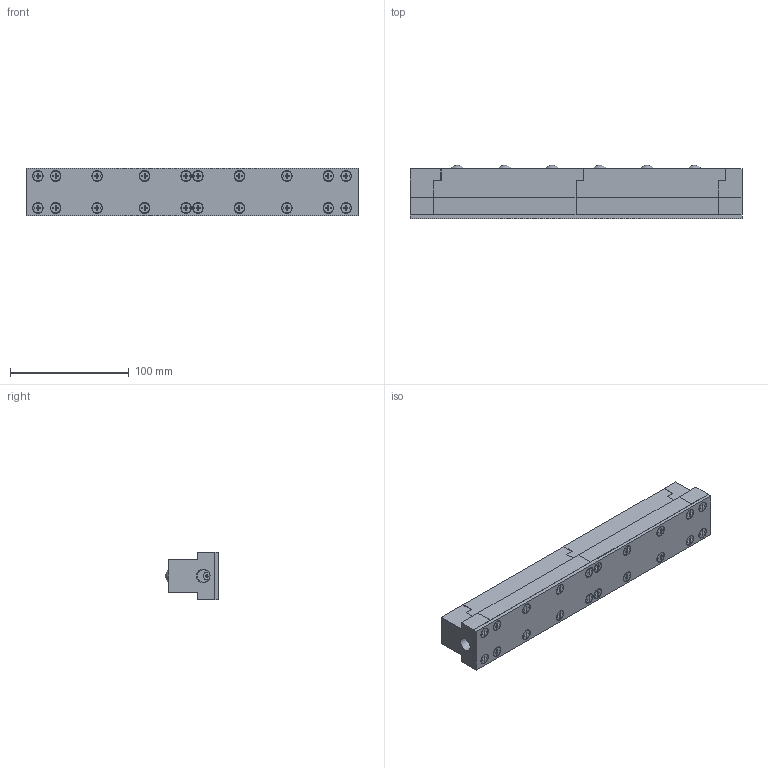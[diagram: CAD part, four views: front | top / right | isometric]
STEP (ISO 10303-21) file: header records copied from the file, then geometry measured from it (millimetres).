
FILE_DESCRIPTION( ( 'STEP AP214' ), '1' );
FILE_NAME( 'Z:/01-DesignData/標準品図面/★Web／カタログ用データ(型式別 3点Set)/074-ISR-28T/ISR-28T-280_0_.stp', '2022-05-10T04:30:38', ( 'License CC BY-ND 4.0' ), ( 'CADENAS' ), ' ', 'PARTsolutions', ' ' );
FILE_SCHEMA( ( 'AUTOMOTIVE_DESIGN { 1 0 10303 214 1 1 1 1 }' ) );
Length unit declared in the file: millimetre
Products named in the file (6): ISR-28T-280(0); _ISR-28T-280(0)_body; _ISR-28T-280_lc; _ISR-28T-280_rc; _M3x10; _ISR-28T-280_ball
Assembly tree (15 placements, depth 2):
  ISR-28T-280(0)
    _ISR-28T-280(0)_body
    _ISR-28T-280_lc
    _ISR-28T-280_rc
    _M3x10  x6
    _ISR-28T-280_ball  x6
Bounding box: 280 x 45 x 40 mm (x, y, z)
Volume: 366934.1 mm3; surface area: 112291.8 mm2
Topology: 15 solids, 15 shells, 581 faces, 1394 edges, 918 vertices
Faces by surface type: plane 451, cylinder 77, cone 41, torus 6, sphere 6
Full cylindrical faces by diameter (mm): 2 x2, 2.459 x6, 3 x6, 3.5 x6, 5.5 x6, 6.2 x1, 8.4 x20, 24 x6, 25 x6, 30 x12
Entity records: 17528 total; most frequent: CARTESIAN_POINT 2369, DIRECTION 2222, ORIENTED_EDGE 2192, EDGE_CURVE 1096, LINE 954, VECTOR 954, VERTEX_POINT 781, AXIS2_PLACEMENT_3D 634
